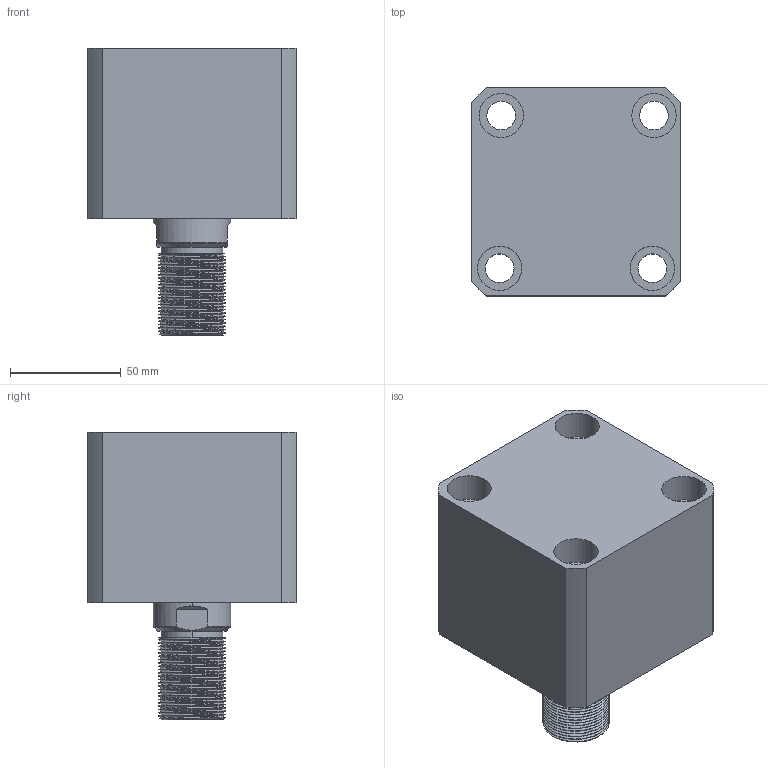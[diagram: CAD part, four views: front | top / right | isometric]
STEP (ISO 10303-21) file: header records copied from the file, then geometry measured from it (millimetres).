
FILE_DESCRIPTION (( 'STEP AP214' ), '1' );
FILE_NAME ('chtb-sdma63x10w_asm.STEP', '2018-05-18T09:01:23', ( 'Windows' ), ( 'Microsoft' ), 'SwSTEP 2.0', 'SolidWorks 2015', '' );
FILE_SCHEMA (( 'AUTOMOTIVE_DESIGN' ));
Length unit declared in the file: millimetre
Products named in the file (4): CHTB-SDMA63X10NBT; CHTB63X10WHSG; CHTB-63QG; chtb-sdma63x10w_asm
Assembly tree (3 placements, depth 2):
  chtb-sdma63x10w_asm
    CHTB-63QG
    CHTB63X10WHSG
    CHTB-SDMA63X10NBT
Bounding box: 94 x 94 x 130 mm (x, y, z)
Volume: 630047.5 mm3; surface area: 116680.9 mm2
Topology: 3 solids, 3 shells, 219 faces, 632 edges, 430 vertices
Faces by surface type: cylinder 156, plane 34, bspline 14, cone 9, torus 6
Entity records: 22297 total; most frequent: CARTESIAN_POINT 17024, ORIENTED_EDGE 1256, DIRECTION 878, EDGE_CURVE 628, VERTEX_POINT 430, AXIS2_PLACEMENT_3D 343, EDGE_LOOP 252, FACE_OUTER_BOUND 219
